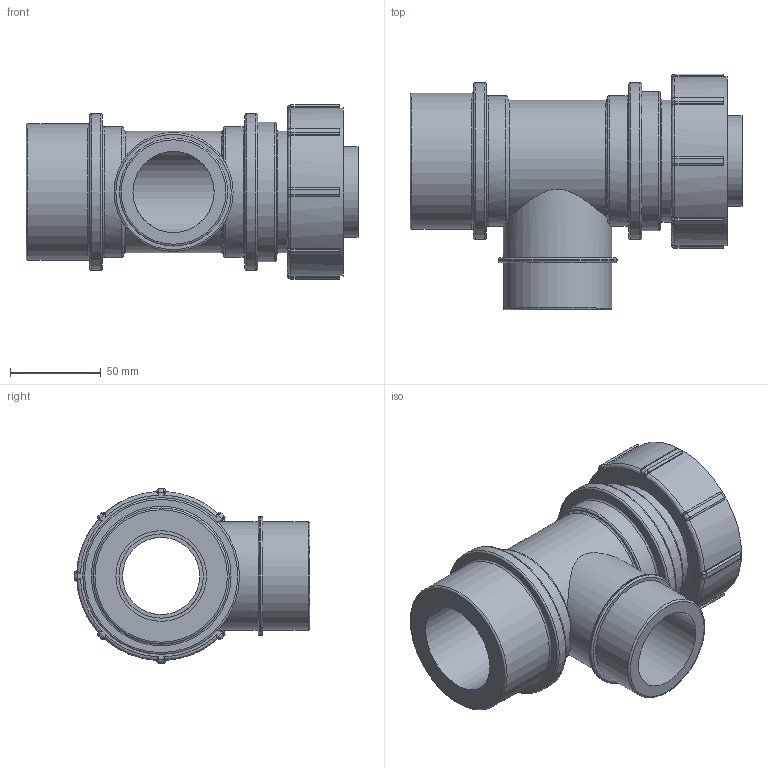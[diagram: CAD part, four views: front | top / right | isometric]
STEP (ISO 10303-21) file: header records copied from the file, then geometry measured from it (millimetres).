
FILE_DESCRIPTION(/* description */ ('PLASSON MODULAR MALE TEE 50-2"-50'),/* implementation_level */ '2;1');
FILE_NAME(/* name */ 'C:\Dropbox\KIMPROJECTS-Inventor\99-16-3568-Processing\Silver+MF ISRAEL\0784L6\0784L60500200A.ipt.stp',/* time_stamp */ '2018-04-09T13:01:21+03:00',/* author */ ('KIM'),/* organization */ (''),/* preprocessor_version */ 'ST-DEVELOPER v15.6',/* originating_system */ 'Autodesk Inventor 2015',/* authorisation */ '');
FILE_SCHEMA (('AUTOMOTIVE_DESIGN { 1 0 10303 214 3 1 1 }'));
Length unit declared in the file: millimetre
Products named in the file (1): 0784L60500200A
Bounding box: 183 x 130 x 96 mm (x, y, z)
Volume: 549064.8 mm3; surface area: 107375.3 mm2
Topology: 1 solids, 1 shells, 166 faces, 394 edges, 243 vertices
Faces by surface type: cylinder 59, plane 50, bspline 32, torus 25
Full cylindrical faces by diameter (mm): 42.5 x1, 44.711 x1, 46.5 x1, 50 x2, 59.614 x2, 65.575 x1, 67.2 x1, 72 x2, 75 x1, 76.8 x1, 81.6 x1, 86.4 x2, 88.32 x1, 93.12 x1
Entity records: 5151 total; most frequent: CARTESIAN_POINT 1545, DIRECTION 754, ORIENTED_EDGE 714, EDGE_CURVE 357, AXIS2_PLACEMENT_3D 323, VERTEX_POINT 237, EDGE_LOOP 214, CIRCLE 188
